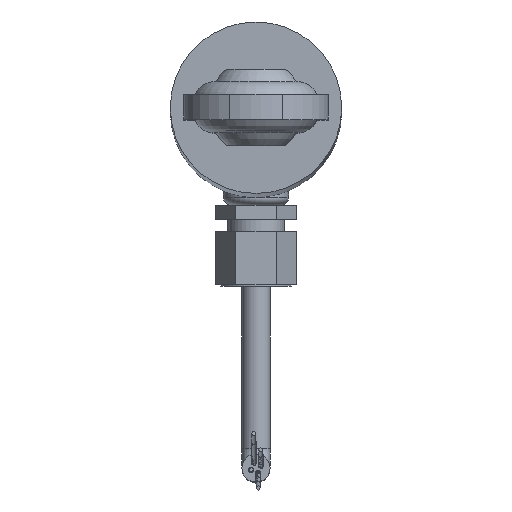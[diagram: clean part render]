
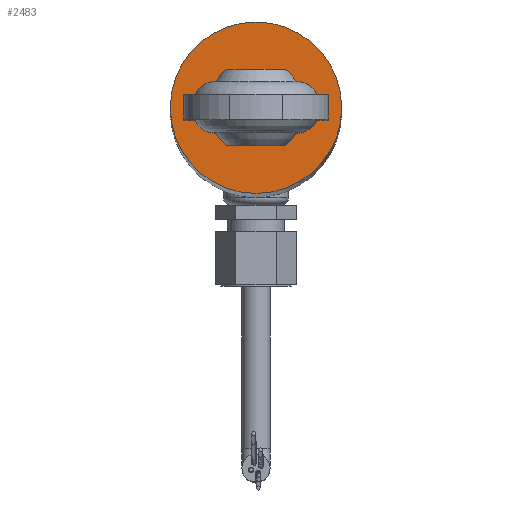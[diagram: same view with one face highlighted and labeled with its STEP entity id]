
A CAD part, top view. The second image highlights one B-rep face of the part: STEP entity #2483.
In plain terms, the highlighted planar face has unit normal (0, 0, 1).
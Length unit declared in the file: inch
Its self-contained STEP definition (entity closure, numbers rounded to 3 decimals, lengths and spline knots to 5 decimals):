
#198=FACE_BOUND('',#572,.T.);
#262=CIRCLE('',#2752,0.185);
#266=CIRCLE('',#2761,0.525);
#409=FACE_OUTER_BOUND('',#571,.T.);
#571=EDGE_LOOP('',(#1863));
#572=EDGE_LOOP('',(#1864));
#1060=VERTEX_POINT('',#4126);
#1064=VERTEX_POINT('',#4178);
#1339=EDGE_CURVE('',#1060,#1060,#262,.T.);
#1347=EDGE_CURVE('',#1064,#1064,#266,.T.);
#1863=ORIENTED_EDGE('',*,*,#1347,.T.);
#1864=ORIENTED_EDGE('',*,*,#1339,.T.);
#2223=PLANE('',#2762);
#2483=ADVANCED_FACE('',(#409,#198),#2223,.T.);
#2752=AXIS2_PLACEMENT_3D('',#4127,#3272,#3273);
#2761=AXIS2_PLACEMENT_3D('',#4179,#3291,#3292);
#2762=AXIS2_PLACEMENT_3D('',#4181,#3294,#3295);
#3272=DIRECTION('center_axis',(0.,0.,
-1.));
#3273=DIRECTION('ref_axis',(-1.,0.,0.));
#3291=DIRECTION('center_axis',(0.,0.,
1.));
#3292=DIRECTION('ref_axis',(-1.,0.,0.));
#3294=DIRECTION('center_axis',(0.,0.,
1.));
#3295=DIRECTION('ref_axis',(-1.,0.,0.));
#4126=CARTESIAN_POINT('',(0.185,0.,13.5));
#4127=CARTESIAN_POINT('Origin',(0.,0.,
13.5));
#4178=CARTESIAN_POINT('',(0.525,0.,13.5));
#4179=CARTESIAN_POINT('Origin',(0.,0.,
13.5));
#4181=CARTESIAN_POINT('Origin',(0.,0.,
13.5));
